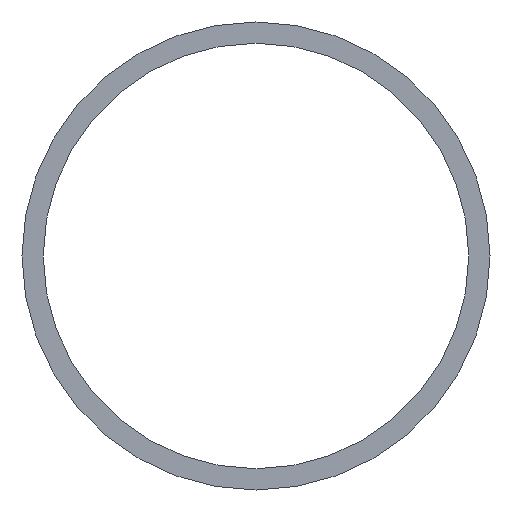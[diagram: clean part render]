
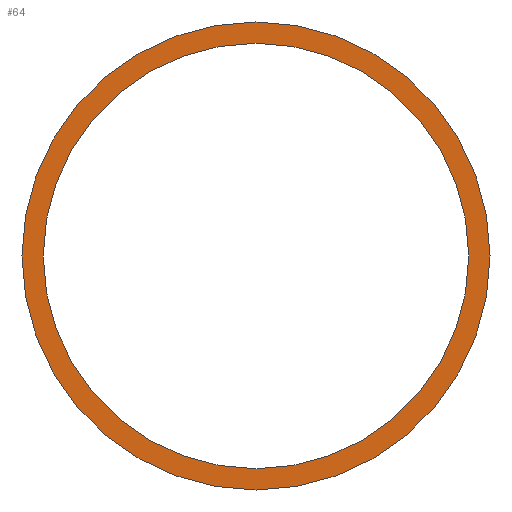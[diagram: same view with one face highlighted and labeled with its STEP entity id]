
A CAD part, front view. The second image highlights one B-rep face of the part: STEP entity #64.
In plain terms, the highlighted planar face has unit normal (0, -1, 0).
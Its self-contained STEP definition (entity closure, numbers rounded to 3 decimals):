
#16=FACE_BOUND('',#28,.T.);
#18=PLANE('',#86);
#22=FACE_OUTER_BOUND('',#27,.T.);
#27=EDGE_LOOP('',(#57));
#28=EDGE_LOOP('',(#58));
#34=CIRCLE('',#81,5.);
#36=CIRCLE('',#84,5.5);
#38=VERTEX_POINT('',#111);
#40=VERTEX_POINT('',#117);
#43=EDGE_CURVE('',#38,#38,#34,.T.);
#46=EDGE_CURVE('',#40,#40,#36,.T.);
#57=ORIENTED_EDGE('',*,*,#46,.F.);
#58=ORIENTED_EDGE('',*,*,#43,.F.);
#64=ADVANCED_FACE('',(#22,#16),#18,.F.);
#81=AXIS2_PLACEMENT_3D('',#113,#94,#95);
#84=AXIS2_PLACEMENT_3D('',#119,#101,#102);
#86=AXIS2_PLACEMENT_3D('',#121,#105,#106);
#94=DIRECTION('center_axis',(0.,-1.,0.));
#95=DIRECTION('ref_axis',(1.,0.,0.));
#101=DIRECTION('center_axis',(0.,1.,0.));
#102=DIRECTION('ref_axis',(1.,0.,0.));
#105=DIRECTION('center_axis',(0.,1.,0.));
#106=DIRECTION('ref_axis',(1.,0.,0.));
#111=CARTESIAN_POINT('',(-5.,0.,0.));
#113=CARTESIAN_POINT('Origin',(0.,0.,0.));
#117=CARTESIAN_POINT('',(-5.5,0.,0.));
#119=CARTESIAN_POINT('Origin',(0.,0.,0.));
#121=CARTESIAN_POINT('Origin',(0.,0.,0.));
